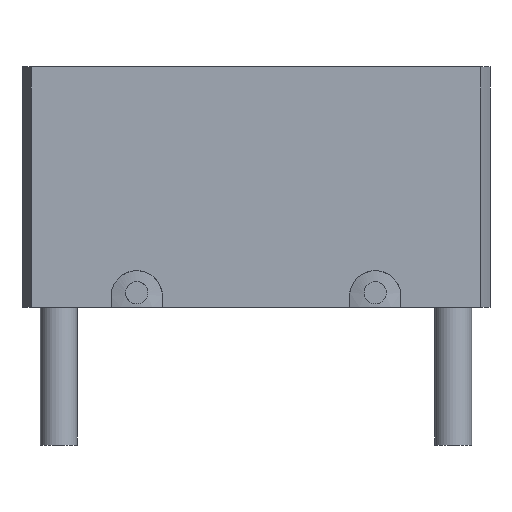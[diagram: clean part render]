
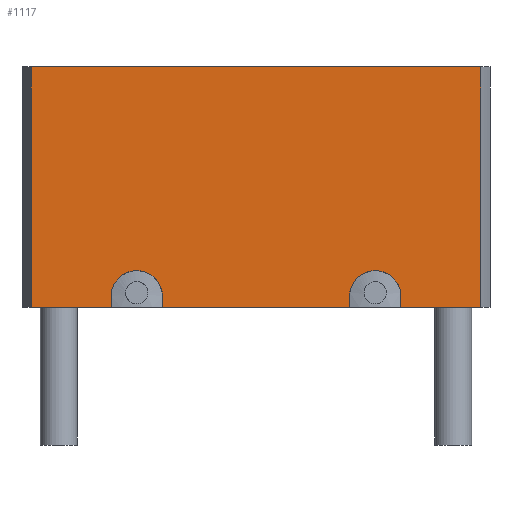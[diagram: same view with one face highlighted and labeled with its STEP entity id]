
A CAD part, front view. The second image highlights one B-rep face of the part: STEP entity #1117.
In plain terms, the highlighted planar face has unit normal (0, -1, 0).
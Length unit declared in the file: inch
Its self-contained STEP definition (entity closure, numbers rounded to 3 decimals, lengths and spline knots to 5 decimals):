
#19 = VERTEX_POINT ( 'NONE', #879 ) ;
#37 = DIRECTION ( 'NONE',  ( 0., 0., -1. ) ) ;
#46 = DIRECTION ( 'NONE',  ( 0., 1., 0. ) ) ;
#62 = EDGE_CURVE ( 'NONE', #2831, #116, #3119, .T. ) ;
#116 = VERTEX_POINT ( 'NONE', #631 ) ;
#119 = DIRECTION ( 'NONE',  ( 0., 0., 1. ) ) ;
#141 = CARTESIAN_POINT ( 'NONE',  ( 0.12247, -0.0625, 0.131 ) ) ;
#207 = VECTOR ( 'NONE', #2777, 39.37008 ) ;
#300 = EDGE_CURVE ( 'NONE', #1693, #2235, #1982, .T. ) ;
#301 = LINE ( 'NONE', #1144, #398 ) ;
#398 = VECTOR ( 'NONE', #3242, 39.37008 ) ;
#403 = LINE ( 'NONE', #2552, #3035 ) ;
#531 = DIRECTION ( 'NONE',  ( 0., 0., 1. ) ) ;
#605 = EDGE_CURVE ( 'NONE', #836, #1402, #3123, .T. ) ;
#610 = CARTESIAN_POINT ( 'NONE',  ( -0.065, -0.0625, 0.006 ) ) ;
#611 = CARTESIAN_POINT ( 'NONE',  ( 0.079, -0.0625, 0.006 ) ) ;
#626 = FACE_OUTER_BOUND ( 'NONE', #641, .T. ) ;
#631 = CARTESIAN_POINT ( 'NONE',  ( -0.12247, -0.0625, 0. ) ) ;
#641 = EDGE_LOOP ( 'NONE', ( #2632, #1055, #1431, #666, #947, #2197, #2668, #2474, #3148, #3336, #908, #1810 ) ) ;
#666 = ORIENTED_EDGE ( 'NONE', *, *, #3060, .T. ) ;
#704 = LINE ( 'NONE', #2124, #2728 ) ;
#723 = LINE ( 'NONE', #2534, #2756 ) ;
#770 = LINE ( 'NONE', #912, #1479 ) ;
#836 = VERTEX_POINT ( 'NONE', #1343 ) ;
#871 = DIRECTION ( 'NONE',  ( 0., 0., 1. ) ) ;
#877 = EDGE_CURVE ( 'NONE', #1986, #2595, #1246, .T. ) ;
#879 = CARTESIAN_POINT ( 'NONE',  ( -0.051, -0.0625, 0. ) ) ;
#896 = DIRECTION ( 'NONE',  ( 1., 0., 0. ) ) ;
#897 = CARTESIAN_POINT ( 'NONE',  ( -0.12247, -0.0625, 0.131 ) ) ;
#908 = ORIENTED_EDGE ( 'NONE', *, *, #2216, .F. ) ;
#912 = CARTESIAN_POINT ( 'NONE',  ( -0.079, -0.0625, 0. ) ) ;
#947 = ORIENTED_EDGE ( 'NONE', *, *, #300, .F. ) ;
#961 = LINE ( 'NONE', #2527, #207 ) ;
#965 = CARTESIAN_POINT ( 'NONE',  ( 0.079, -0.0625, 0. ) ) ;
#1055 = ORIENTED_EDGE ( 'NONE', *, *, #605, .T. ) ;
#1117 = ADVANCED_FACE ( 'NONE', ( #626 ), #2157, .F. ) ;
#1144 = CARTESIAN_POINT ( 'NONE',  ( -0.12247, -0.0625, 0. ) ) ;
#1246 = CIRCLE ( 'NONE', #1535, 0.014 ) ;
#1337 = CARTESIAN_POINT ( 'NONE',  ( -0.079, -0.0625, 0. ) ) ;
#1343 = CARTESIAN_POINT ( 'NONE',  ( 0.051, -0.0625, 0.006 ) ) ;
#1402 = VERTEX_POINT ( 'NONE', #611 ) ;
#1431 = ORIENTED_EDGE ( 'NONE', *, *, #2028, .T. ) ;
#1479 = VECTOR ( 'NONE', #3259, 39.37008 ) ;
#1533 = LINE ( 'NONE', #1895, #2248 ) ;
#1535 = AXIS2_PLACEMENT_3D ( 'NONE', #610, #2463, #871 ) ;
#1558 = VERTEX_POINT ( 'NONE', #2407 ) ;
#1578 = CARTESIAN_POINT ( 'NONE',  ( 0.12247, -0.0625, 0. ) ) ;
#1623 = CARTESIAN_POINT ( 'NONE',  ( -0.051, -0.0625, 0.006 ) ) ;
#1633 = CARTESIAN_POINT ( 'NONE',  ( -0.12247, -0.0625, 0.131 ) ) ;
#1693 = VERTEX_POINT ( 'NONE', #141 ) ;
#1714 = DIRECTION ( 'NONE',  ( 0., 1., 0. ) ) ;
#1737 = EDGE_CURVE ( 'NONE', #2831, #1693, #961, .T. ) ;
#1751 = VECTOR ( 'NONE', #2748, 39.37008 ) ;
#1810 = ORIENTED_EDGE ( 'NONE', *, *, #3082, .T. ) ;
#1839 = CARTESIAN_POINT ( 'NONE',  ( -0.12247, -0.0625, 0.131 ) ) ;
#1882 = VECTOR ( 'NONE', #2690, 39.37008 ) ;
#1895 = CARTESIAN_POINT ( 'NONE',  ( 0.079, -0.0625, 0. ) ) ;
#1910 = DIRECTION ( 'NONE',  ( 0., 0., 1. ) ) ;
#1946 = VERTEX_POINT ( 'NONE', #1337 ) ;
#1982 = LINE ( 'NONE', #3207, #1882 ) ;
#1986 = VERTEX_POINT ( 'NONE', #1623 ) ;
#2010 = DIRECTION ( 'NONE',  ( 1., 0., 0. ) ) ;
#2016 = VECTOR ( 'NONE', #896, 39.37008 ) ;
#2028 = EDGE_CURVE ( 'NONE', #1402, #3403, #1533, .T. ) ;
#2124 = CARTESIAN_POINT ( 'NONE',  ( -0.051, -0.0625, 0.006 ) ) ;
#2157 = PLANE ( 'NONE',  #3211 ) ;
#2176 = AXIS2_PLACEMENT_3D ( 'NONE', #3285, #1714, #119 ) ;
#2197 = ORIENTED_EDGE ( 'NONE', *, *, #1737, .F. ) ;
#2216 = EDGE_CURVE ( 'NONE', #19, #1986, #704, .T. ) ;
#2235 = VERTEX_POINT ( 'NONE', #1578 ) ;
#2248 = VECTOR ( 'NONE', #37, 39.37008 ) ;
#2407 = CARTESIAN_POINT ( 'NONE',  ( 0.051, -0.0625, 0. ) ) ;
#2463 = DIRECTION ( 'NONE',  ( 0., -1., 0. ) ) ;
#2474 = ORIENTED_EDGE ( 'NONE', *, *, #2573, .T. ) ;
#2492 = CARTESIAN_POINT ( 'NONE',  ( -0.12247, -0.0625, 0. ) ) ;
#2527 = CARTESIAN_POINT ( 'NONE',  ( -0.12247, -0.0625, 0.131 ) ) ;
#2534 = CARTESIAN_POINT ( 'NONE',  ( -0.12247, -0.0625, 0. ) ) ;
#2552 = CARTESIAN_POINT ( 'NONE',  ( 0.051, -0.0625, 0.006 ) ) ;
#2573 = EDGE_CURVE ( 'NONE', #116, #1946, #723, .T. ) ;
#2595 = VERTEX_POINT ( 'NONE', #3329 ) ;
#2612 = EDGE_CURVE ( 'NONE', #1558, #836, #403, .T. ) ;
#2632 = ORIENTED_EDGE ( 'NONE', *, *, #2612, .T. ) ;
#2668 = ORIENTED_EDGE ( 'NONE', *, *, #62, .T. ) ;
#2690 = DIRECTION ( 'NONE',  ( 0., 0., -1. ) ) ;
#2728 = VECTOR ( 'NONE', #531, 39.37008 ) ;
#2748 = DIRECTION ( 'NONE',  ( 0., 0., -1. ) ) ;
#2756 = VECTOR ( 'NONE', #2010, 39.37008 ) ;
#2777 = DIRECTION ( 'NONE',  ( 1., 0., 0. ) ) ;
#2811 = DIRECTION ( 'NONE',  ( 0., 0., 1. ) ) ;
#2831 = VERTEX_POINT ( 'NONE', #1839 ) ;
#3035 = VECTOR ( 'NONE', #2811, 39.37008 ) ;
#3060 = EDGE_CURVE ( 'NONE', #3403, #2235, #301, .T. ) ;
#3082 = EDGE_CURVE ( 'NONE', #19, #1558, #3390, .T. ) ;
#3119 = LINE ( 'NONE', #897, #1751 ) ;
#3123 = CIRCLE ( 'NONE', #2176, 0.014 ) ;
#3148 = ORIENTED_EDGE ( 'NONE', *, *, #3229, .F. ) ;
#3207 = CARTESIAN_POINT ( 'NONE',  ( 0.12247, -0.0625, 0.131 ) ) ;
#3211 = AXIS2_PLACEMENT_3D ( 'NONE', #1633, #46, #1910 ) ;
#3229 = EDGE_CURVE ( 'NONE', #2595, #1946, #770, .T. ) ;
#3242 = DIRECTION ( 'NONE',  ( 1., 0., 0. ) ) ;
#3259 = DIRECTION ( 'NONE',  ( 0., 0., -1. ) ) ;
#3285 = CARTESIAN_POINT ( 'NONE',  ( 0.065, -0.0625, 0.006 ) ) ;
#3329 = CARTESIAN_POINT ( 'NONE',  ( -0.079, -0.0625, 0.006 ) ) ;
#3336 = ORIENTED_EDGE ( 'NONE', *, *, #877, .F. ) ;
#3390 = LINE ( 'NONE', #2492, #2016 ) ;
#3403 = VERTEX_POINT ( 'NONE', #965 ) ;
